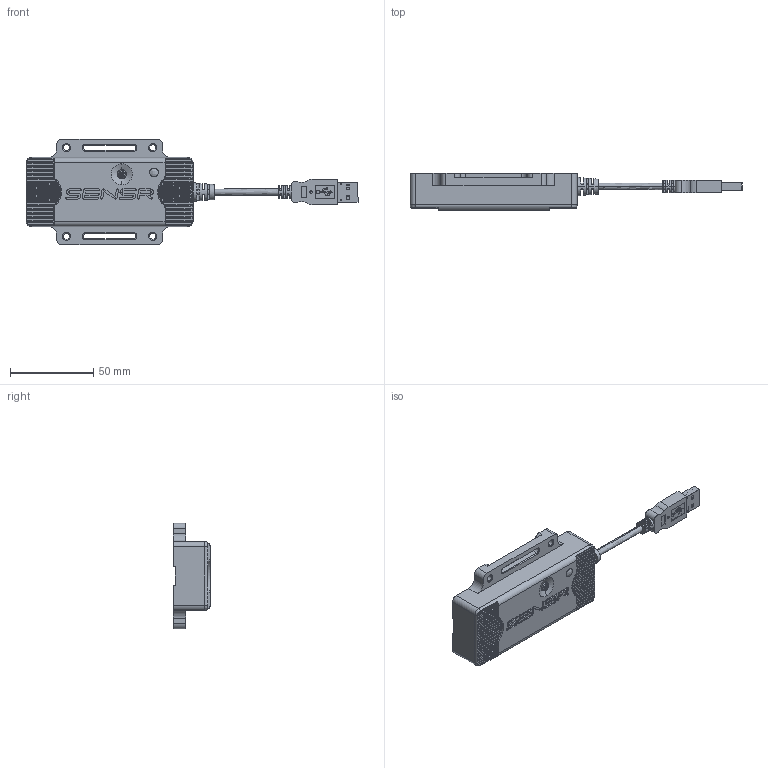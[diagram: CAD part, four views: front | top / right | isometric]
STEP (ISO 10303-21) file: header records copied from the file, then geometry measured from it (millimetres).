
FILE_DESCRIPTION (( 'STEP AP203' ), '1' );
FILE_NAME ('2GP2.STEP', '2011-03-11T15:13:26', ( 'Leslie Davis' ), ( 'Reference LLC' ), 'SwSTEP 2.0', 'SolidWorks 2006233', '' );
FILE_SCHEMA (( 'CONFIG_CONTROL_DESIGN' ));
Length unit declared in the file: inch
Products named in the file (1): 2GP2
Bounding box: 199.82 x 22.81 x 63.5 mm (x, y, z)
Volume: 98502.7 mm3; surface area: 24287.5 mm2
Topology: 1 solids, 1 shells, 686 faces, 1850 edges, 1197 vertices
Faces by surface type: plane 323, cylinder 229, bspline 100, cone 34
Entity records: 25132 total; most frequent: CARTESIAN_POINT 8200, ORIENTED_EDGE 3684, DIRECTION 3343, EDGE_CURVE 1842, VERTEX_POINT 1197, AXIS2_PLACEMENT_3D 1160, VECTOR 1023, LINE 1023
